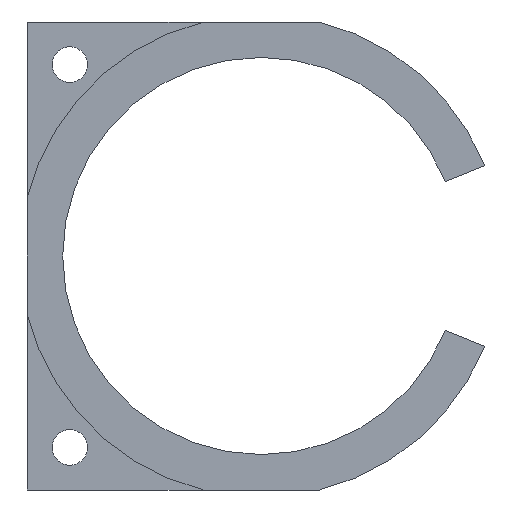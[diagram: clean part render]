
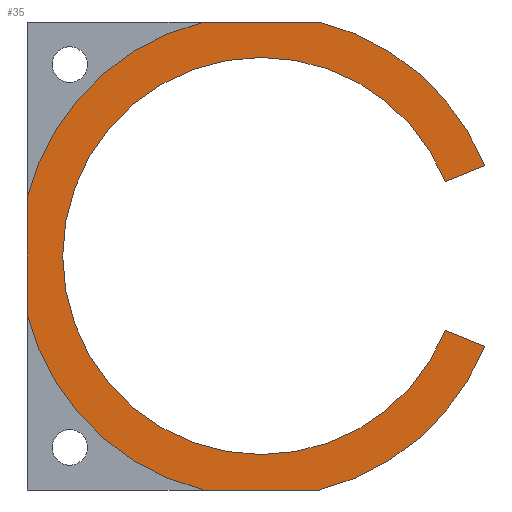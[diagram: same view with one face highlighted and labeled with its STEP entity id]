
A CAD part, front view. The second image highlights one B-rep face of the part: STEP entity #35.
In plain terms, the highlighted planar face has unit normal (0, -1, 0).
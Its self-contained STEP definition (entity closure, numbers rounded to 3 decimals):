
#8 = CIRCLE ( 'NONE', #500, 17. ) ;
#23 = ORIENTED_EDGE ( 'NONE', *, *, #457, .T. ) ;
#35 = ADVANCED_FACE ( 'NONE', ( #721 ), #775, .F. ) ;
#44 = CARTESIAN_POINT ( 'NONE',  ( 0., -7.5, 0. ) ) ;
#56 = ORIENTED_EDGE ( 'NONE', *, *, #549, .T. ) ;
#64 = CARTESIAN_POINT ( 'NONE',  ( -16.5, -7.5, 0. ) ) ;
#72 = DIRECTION ( 'NONE',  ( 0., 0., -1. ) ) ;
#73 = EDGE_CURVE ( 'NONE', #612, #293, #698, .T. ) ;
#81 = VERTEX_POINT ( 'NONE', #318 ) ;
#86 = VERTEX_POINT ( 'NONE', #574 ) ;
#111 = VERTEX_POINT ( 'NONE', #130 ) ;
#113 = AXIS2_PLACEMENT_3D ( 'NONE', #211, #418, #395 ) ;
#114 = CARTESIAN_POINT ( 'NONE',  ( 0., -7.5, 0. ) ) ;
#115 = VERTEX_POINT ( 'NONE', #445 ) ;
#122 = DIRECTION ( 'NONE',  ( 0., 0., 1. ) ) ;
#126 = CIRCLE ( 'NONE', #224, 14. ) ;
#130 = CARTESIAN_POINT ( 'NONE',  ( 4.093, -7.5, -16.5 ) ) ;
#132 = CIRCLE ( 'NONE', #113, 17. ) ;
#138 = DIRECTION ( 'NONE',  ( 0., 0., 1. ) ) ;
#170 = DIRECTION ( 'NONE',  ( 0., 1., 0. ) ) ;
#201 = EDGE_CURVE ( 'NONE', #279, #324, #132, .T. ) ;
#203 = CARTESIAN_POINT ( 'NONE',  ( 0., -7.5, 16.5 ) ) ;
#211 = CARTESIAN_POINT ( 'NONE',  ( 0., -7.5, 0. ) ) ;
#214 = DIRECTION ( 'NONE',  ( 0., 0., 1. ) ) ;
#215 = ORIENTED_EDGE ( 'NONE', *, *, #417, .F. ) ;
#224 = AXIS2_PLACEMENT_3D ( 'NONE', #114, #234, #746 ) ;
#234 = DIRECTION ( 'NONE',  ( 0., 1., 0. ) ) ;
#235 = ORIENTED_EDGE ( 'NONE', *, *, #201, .F. ) ;
#238 = EDGE_LOOP ( 'NONE', ( #215, #618, #561, #552, #491, #504, #494, #577, #235, #23, #653, #56 ) ) ;
#241 = EDGE_CURVE ( 'NONE', #115, #81, #477, .T. ) ;
#249 = AXIS2_PLACEMENT_3D ( 'NONE', #755, #435, #122 ) ;
#269 = EDGE_CURVE ( 'NONE', #86, #581, #8, .T. ) ;
#279 = VERTEX_POINT ( 'NONE', #560 ) ;
#283 = DIRECTION ( 'NONE',  ( 1., 0., 0. ) ) ;
#287 = VECTOR ( 'NONE', #283, 1000. ) ;
#293 = VERTEX_POINT ( 'NONE', #696 ) ;
#297 = VERTEX_POINT ( 'NONE', #558 ) ;
#304 = CARTESIAN_POINT ( 'NONE',  ( 0., -7.5, -14. ) ) ;
#310 = CARTESIAN_POINT ( 'NONE',  ( -4.093, -7.5, 16.5 ) ) ;
#316 = LINE ( 'NONE', #64, #729 ) ;
#318 = CARTESIAN_POINT ( 'NONE',  ( 12.981, -7.5, -5.244 ) ) ;
#324 = VERTEX_POINT ( 'NONE', #310 ) ;
#327 = AXIS2_PLACEMENT_3D ( 'NONE', #585, #826, #138 ) ;
#345 = DIRECTION ( 'NONE',  ( 0., 0., 1. ) ) ;
#367 = VECTOR ( 'NONE', #735, 1000. ) ;
#370 = VERTEX_POINT ( 'NONE', #304 ) ;
#381 = EDGE_CURVE ( 'NONE', #370, #297, #126, .T. ) ;
#382 = DIRECTION ( 'NONE',  ( 0., 1., 0. ) ) ;
#392 = LINE ( 'NONE', #528, #287 ) ;
#395 = DIRECTION ( 'NONE',  ( 0., 0., 1. ) ) ;
#417 = EDGE_CURVE ( 'NONE', #115, #111, #689, .T. ) ;
#418 = DIRECTION ( 'NONE',  ( 0., 1., 0. ) ) ;
#434 = CARTESIAN_POINT ( 'NONE',  ( 12.981, -7.5, 5.244 ) ) ;
#435 = DIRECTION ( 'NONE',  ( 0., 1., 0. ) ) ;
#445 = CARTESIAN_POINT ( 'NONE',  ( 15.762, -7.5, -6.368 ) ) ;
#452 = DIRECTION ( 'NONE',  ( -1., 0., 0. ) ) ;
#457 = EDGE_CURVE ( 'NONE', #279, #581, #316, .T. ) ;
#458 = VECTOR ( 'NONE', #452, 1000. ) ;
#466 = AXIS2_PLACEMENT_3D ( 'NONE', #537, #786, #345 ) ;
#477 = LINE ( 'NONE', #802, #367 ) ;
#478 = VECTOR ( 'NONE', #502, 1000. ) ;
#482 = EDGE_CURVE ( 'NONE', #615, #324, #763, .T. ) ;
#483 = CARTESIAN_POINT ( 'NONE',  ( -16.5, -7.5, -4.093 ) ) ;
#491 = ORIENTED_EDGE ( 'NONE', *, *, #508, .T. ) ;
#494 = ORIENTED_EDGE ( 'NONE', *, *, #571, .F. ) ;
#500 = AXIS2_PLACEMENT_3D ( 'NONE', #44, #170, #681 ) ;
#502 = DIRECTION ( 'NONE',  ( 0.927, 0., 0.375 ) ) ;
#504 = ORIENTED_EDGE ( 'NONE', *, *, #73, .T. ) ;
#508 = EDGE_CURVE ( 'NONE', #297, #612, #677, .T. ) ;
#522 = AXIS2_PLACEMENT_3D ( 'NONE', #788, #602, #214 ) ;
#528 = CARTESIAN_POINT ( 'NONE',  ( 0., -7.5, -16.5 ) ) ;
#537 = CARTESIAN_POINT ( 'NONE',  ( 0., -7.5, 0. ) ) ;
#538 = EDGE_CURVE ( 'NONE', #81, #370, #793, .T. ) ;
#549 = EDGE_CURVE ( 'NONE', #86, #111, #392, .T. ) ;
#552 = ORIENTED_EDGE ( 'NONE', *, *, #381, .T. ) ;
#558 = CARTESIAN_POINT ( 'NONE',  ( 0., -7.5, 14. ) ) ;
#560 = CARTESIAN_POINT ( 'NONE',  ( -16.5, -7.5, 4.093 ) ) ;
#561 = ORIENTED_EDGE ( 'NONE', *, *, #538, .T. ) ;
#571 = EDGE_CURVE ( 'NONE', #615, #293, #749, .T. ) ;
#574 = CARTESIAN_POINT ( 'NONE',  ( -4.093, -7.5, -16.5 ) ) ;
#577 = ORIENTED_EDGE ( 'NONE', *, *, #482, .T. ) ;
#581 = VERTEX_POINT ( 'NONE', #483 ) ;
#585 = CARTESIAN_POINT ( 'NONE',  ( 0., -7.5, 0. ) ) ;
#602 = DIRECTION ( 'NONE',  ( 0., 1., 0. ) ) ;
#612 = VERTEX_POINT ( 'NONE', #701 ) ;
#615 = VERTEX_POINT ( 'NONE', #638 ) ;
#618 = ORIENTED_EDGE ( 'NONE', *, *, #241, .T. ) ;
#633 = DIRECTION ( 'NONE',  ( 0., 0., 1. ) ) ;
#638 = CARTESIAN_POINT ( 'NONE',  ( 4.093, -7.5, 16.5 ) ) ;
#653 = ORIENTED_EDGE ( 'NONE', *, *, #269, .F. ) ;
#677 = CIRCLE ( 'NONE', #327, 14. ) ;
#681 = DIRECTION ( 'NONE',  ( 0., 0., 1. ) ) ;
#684 = AXIS2_PLACEMENT_3D ( 'NONE', #707, #382, #633 ) ;
#689 = CIRCLE ( 'NONE', #249, 17. ) ;
#696 = CARTESIAN_POINT ( 'NONE',  ( 15.762, -7.5, 6.368 ) ) ;
#698 = LINE ( 'NONE', #434, #478 ) ;
#701 = CARTESIAN_POINT ( 'NONE',  ( 12.981, -7.5, 5.244 ) ) ;
#707 = CARTESIAN_POINT ( 'NONE',  ( 0., -7.5, 0. ) ) ;
#721 = FACE_OUTER_BOUND ( 'NONE', #238, .T. ) ;
#729 = VECTOR ( 'NONE', #72, 1000. ) ;
#735 = DIRECTION ( 'NONE',  ( -0.927, 0., 0.375 ) ) ;
#746 = DIRECTION ( 'NONE',  ( 0., 0., 1. ) ) ;
#749 = CIRCLE ( 'NONE', #466, 17. ) ;
#755 = CARTESIAN_POINT ( 'NONE',  ( 0., -7.5, 0. ) ) ;
#763 = LINE ( 'NONE', #203, #458 ) ;
#775 = PLANE ( 'NONE',  #522 ) ;
#786 = DIRECTION ( 'NONE',  ( 0., 1., 0. ) ) ;
#788 = CARTESIAN_POINT ( 'NONE',  ( 0., -7.5, 0. ) ) ;
#793 = CIRCLE ( 'NONE', #684, 14. ) ;
#802 = CARTESIAN_POINT ( 'NONE',  ( 0., -7.5, 0. ) ) ;
#826 = DIRECTION ( 'NONE',  ( 0., 1., 0. ) ) ;
